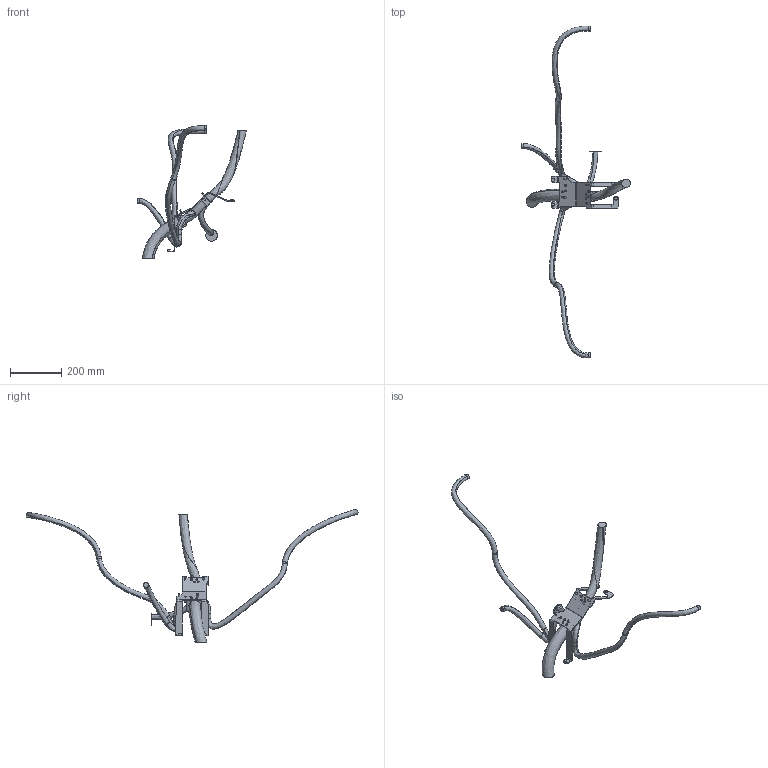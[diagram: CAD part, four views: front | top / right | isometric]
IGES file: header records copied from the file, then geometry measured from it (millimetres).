
Start section: SolidWorks IGES file using analytic representation for surfaces
Global section: file name: C:\Users\SEJAOLS6\OneDrive - ABB\Documents\SAP\7720\7720_Lightweight_models\IRB7720-MH3_530kg-310_OC_01_SW_J\IRB7710-MH3_530kg-310_OC_01_IGES_J\IRB77X0_All_OC_00_LINK01m_CABLE.igs; native system: SolidWorks 2024; preprocessor: SolidWorks 2024; author: SEJAOLS6; date: 260127.083025; units: millimetre
Bounding box: 423.68 x 1291.1 x 516.66 mm (x, y, z)
Surface area: 301276.5 mm2 (no closed solid volume)
Topology: 0 solids, 0 shells, 273 faces, 4215 edges, 4215 vertices
Faces by surface type: bspline 182, revolution 91
